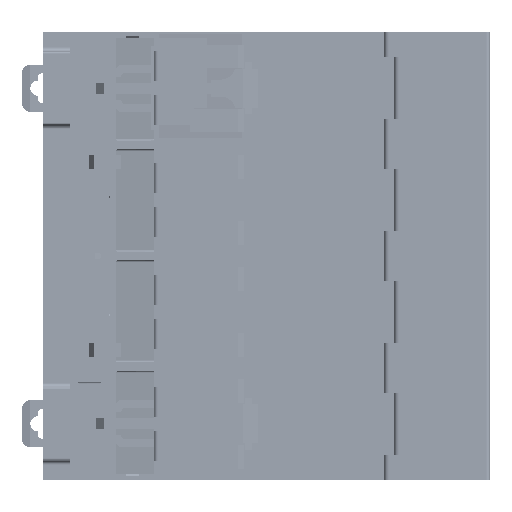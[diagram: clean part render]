
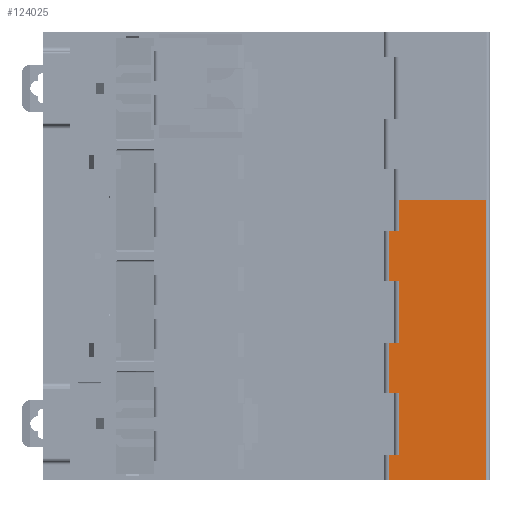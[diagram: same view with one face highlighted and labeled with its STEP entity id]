
A CAD part, front view. The second image highlights one B-rep face of the part: STEP entity #124025.
In plain terms, the highlighted planar face has unit normal (0, -1, 0).
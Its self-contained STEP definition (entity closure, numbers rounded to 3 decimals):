
#6635=DIRECTION('',(1.,0.,0.));
#6636=VECTOR('',#6635,2.4);
#6637=CARTESIAN_POINT('',(204.961,3.677,-47.6));
#6638=LINE('',#6637,#6636);
#6639=DIRECTION('',(1.,0.,0.));
#6640=VECTOR('',#6639,20.9);
#6641=CARTESIAN_POINT('',(207.361,3.677,-40.2));
#6642=LINE('',#6641,#6640);
#6643=DIRECTION('',(0.,0.,-1.));
#6644=VECTOR('',#6643,67.);
#6645=CARTESIAN_POINT('',(228.261,3.677,-40.2));
#6646=LINE('',#6645,#6644);
#6647=DIRECTION('',(1.,0.,0.));
#6648=VECTOR('',#6647,2.4);
#6649=CARTESIAN_POINT('',(204.961,3.677,-101.2));
#6650=LINE('',#6649,#6648);
#6651=DIRECTION('',(-1.,0.,0.));
#6652=VECTOR('',#6651,2.4);
#6653=CARTESIAN_POINT('',(207.361,3.677,-86.4));
#6654=LINE('',#6653,#6652);
#6655=DIRECTION('',(1.,0.,0.));
#6656=VECTOR('',#6655,2.4);
#6657=CARTESIAN_POINT('',(204.961,3.677,-74.4));
#6658=LINE('',#6657,#6656);
#6659=DIRECTION('',(-1.,0.,0.));
#6660=VECTOR('',#6659,2.4);
#6661=CARTESIAN_POINT('',(207.361,3.677,-59.6));
#6662=LINE('',#6661,#6660);
#6663=DIRECTION('',(0.,0.,-1.));
#6664=VECTOR('',#6663,12.);
#6665=CARTESIAN_POINT('',(204.961,3.677,-47.6));
#6666=LINE('',#6665,#6664);
#13912=DIRECTION('',(1.,0.,0.));
#13913=VECTOR('',#13912,23.3);
#13914=CARTESIAN_POINT('',(204.961,3.677,-107.2));
#13915=LINE('',#13914,#13913);
#14015=DIRECTION('',(0.,0.,-1.));
#14016=VECTOR('',#14015,14.8);
#14017=CARTESIAN_POINT('',(207.361,3.677,-86.4));
#14018=LINE('',#14017,#14016);
#14055=DIRECTION('',(0.,0.,-1.));
#14056=VECTOR('',#14055,14.8);
#14057=CARTESIAN_POINT('',(207.361,3.677,-59.6));
#14058=LINE('',#14057,#14056);
#14073=DIRECTION('',(0.,0.,-1.));
#14074=VECTOR('',#14073,12.);
#14075=CARTESIAN_POINT('',(204.961,3.677,-74.4));
#14076=LINE('',#14075,#14074);
#14093=DIRECTION('',(0.,0.,-1.));
#14094=VECTOR('',#14093,6.);
#14095=CARTESIAN_POINT('',(204.961,3.677,-101.2));
#14096=LINE('',#14095,#14094);
#64334=DIRECTION('',(0.,0.,-1.));
#64335=VECTOR('',#64334,7.4);
#64336=CARTESIAN_POINT('',(207.361,3.677,-40.2));
#64337=LINE('',#64336,#64335);
#103100=CARTESIAN_POINT('',(207.361,3.677,-101.2));
#103101=VERTEX_POINT('',#103100);
#103102=CARTESIAN_POINT('',(204.961,3.677,-107.2));
#103103=CARTESIAN_POINT('',(228.261,3.677,-107.2));
#103104=VERTEX_POINT('',#103102);
#103105=VERTEX_POINT('',#103103);
#103106=CARTESIAN_POINT('',(204.961,3.677,-101.2));
#103107=VERTEX_POINT('',#103106);
#107117=CARTESIAN_POINT('',(207.361,3.677,-86.4));
#107118=CARTESIAN_POINT('',(204.961,3.677,-86.4));
#107119=VERTEX_POINT('',#107117);
#107120=VERTEX_POINT('',#107118);
#108601=CARTESIAN_POINT('',(204.961,3.677,-74.4));
#108602=CARTESIAN_POINT('',(207.361,3.677,-74.4));
#108603=VERTEX_POINT('',#108601);
#108604=VERTEX_POINT('',#108602);
#110995=CARTESIAN_POINT('',(207.361,3.677,-59.6));
#110996=CARTESIAN_POINT('',(204.961,3.677,-59.6));
#110997=VERTEX_POINT('',#110995);
#110998=VERTEX_POINT('',#110996);
#112197=CARTESIAN_POINT('',(228.261,3.677,-40.2));
#112198=VERTEX_POINT('',#112197);
#112199=CARTESIAN_POINT('',(207.361,3.677,-40.2));
#112200=VERTEX_POINT('',#112199);
#112869=CARTESIAN_POINT('',(204.961,3.677,-47.6));
#112870=CARTESIAN_POINT('',(207.361,3.677,-47.6));
#112871=VERTEX_POINT('',#112869);
#112872=VERTEX_POINT('',#112870);
#123992=CARTESIAN_POINT('',(206.361,3.677,-93.8));
#123993=DIRECTION('',(0.,-1.,0.));
#123994=DIRECTION('',(1.,0.,0.));
#123995=AXIS2_PLACEMENT_3D('',#123992,#123993,#123994);
#123996=PLANE('',#123995);
#123998=ORIENTED_EDGE('',*,*,#123997,.F.);
#124000=ORIENTED_EDGE('',*,*,#123999,.T.);
#124002=ORIENTED_EDGE('',*,*,#124001,.F.);
#124003=ORIENTED_EDGE('',*,*,#120512,.T.);
#124004=ORIENTED_EDGE('',*,*,#123983,.T.);
#124006=ORIENTED_EDGE('',*,*,#124005,.F.);
#124008=ORIENTED_EDGE('',*,*,#124007,.F.);
#124010=ORIENTED_EDGE('',*,*,#124009,.T.);
#124012=ORIENTED_EDGE('',*,*,#124011,.F.);
#124014=ORIENTED_EDGE('',*,*,#124013,.T.);
#124016=ORIENTED_EDGE('',*,*,#124015,.F.);
#124018=ORIENTED_EDGE('',*,*,#124017,.T.);
#124020=ORIENTED_EDGE('',*,*,#124019,.F.);
#124022=ORIENTED_EDGE('',*,*,#124021,.T.);
#124023=EDGE_LOOP('',(#123998,#124000,#124002,#124003,#124004,#124006,#124008,
#124010,#124012,#124014,#124016,#124018,#124020,#124022));
#124024=FACE_OUTER_BOUND('',#124023,.F.);
#124025=ADVANCED_FACE('',(#124024),#123996,.T.);
#120512=EDGE_CURVE('',#112200,#112198,#6642,.T.);
#123983=EDGE_CURVE('',#112198,#103105,#6646,.T.);
#123997=EDGE_CURVE('',#112871,#110998,#6666,.T.);
#123999=EDGE_CURVE('',#112871,#112872,#6638,.T.);
#124001=EDGE_CURVE('',#112200,#112872,#64337,.T.);
#124005=EDGE_CURVE('',#103104,#103105,#13915,.T.);
#124007=EDGE_CURVE('',#103107,#103104,#14096,.T.);
#124009=EDGE_CURVE('',#103107,#103101,#6650,.T.);
#124011=EDGE_CURVE('',#107119,#103101,#14018,.T.);
#124013=EDGE_CURVE('',#107119,#107120,#6654,.T.);
#124015=EDGE_CURVE('',#108603,#107120,#14076,.T.);
#124017=EDGE_CURVE('',#108603,#108604,#6658,.T.);
#124019=EDGE_CURVE('',#110997,#108604,#14058,.T.);
#124021=EDGE_CURVE('',#110997,#110998,#6662,.T.);
